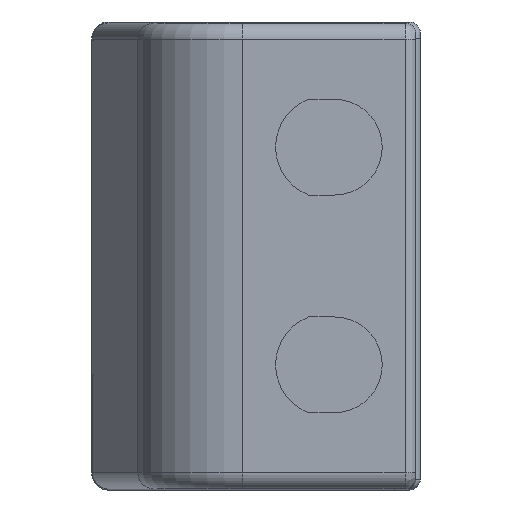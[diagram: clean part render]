
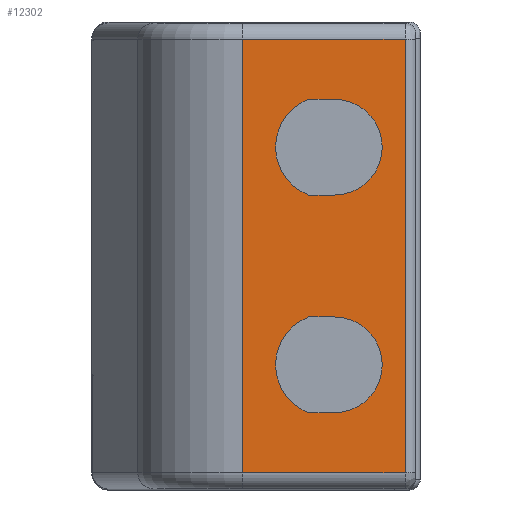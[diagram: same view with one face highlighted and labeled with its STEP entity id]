
A CAD part, left-side view. The second image highlights one B-rep face of the part: STEP entity #12302.
In plain terms, the highlighted planar face has unit normal (-1, 0, 0) as drawn and (0, 0, 1) by its records, which use the part's own axes.
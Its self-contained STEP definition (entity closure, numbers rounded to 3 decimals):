
#10749=CARTESIAN_POINT('',(-10.,8.2,30.));
#10750=DIRECTION('',(0.,0.,1.));
#10751=DIRECTION('',(0.936,0.352,0.));
#10752=AXIS2_PLACEMENT_3D('',#10749,#10750,#10751);
#10754=DIRECTION('',(0.,-1.,0.));
#10755=VECTOR('',#10754,2.352);
#10756=CARTESIAN_POINT('',(-14.4,9.852,30.));
#10757=LINE('',#10756,#10755);
#10758=CARTESIAN_POINT('',(-10.,7.5,30.));
#10759=DIRECTION('',(0.,0.,1.));
#10760=DIRECTION('',(-1.,0.,0.));
#10761=AXIS2_PLACEMENT_3D('',#10758,#10759,#10760);
#10763=DIRECTION('',(0.,1.,0.));
#10764=VECTOR('',#10763,2.352);
#10765=CARTESIAN_POINT('',(-5.6,7.5,30.));
#10766=LINE('',#10765,#10764);
#10767=CARTESIAN_POINT('',(10.,8.2,30.));
#10768=DIRECTION('',(0.,0.,1.));
#10769=DIRECTION('',(0.936,0.352,0.));
#10770=AXIS2_PLACEMENT_3D('',#10767,#10768,#10769);
#10772=DIRECTION('',(0.,-1.,0.));
#10773=VECTOR('',#10772,2.352);
#10774=CARTESIAN_POINT('',(5.6,9.852,30.));
#10775=LINE('',#10774,#10773);
#10776=CARTESIAN_POINT('',(10.,7.5,30.));
#10777=DIRECTION('',(0.,0.,1.));
#10778=DIRECTION('',(-1.,0.,0.));
#10779=AXIS2_PLACEMENT_3D('',#10776,#10777,#10778);
#10781=DIRECTION('',(0.,1.,0.));
#10782=VECTOR('',#10781,2.352);
#10783=CARTESIAN_POINT('',(14.4,7.5,30.));
#10784=LINE('',#10783,#10782);
#10785=DIRECTION('',(1.,0.,0.));
#10786=VECTOR('',#10785,39.8);
#10787=CARTESIAN_POINT('',(-19.9,1.,30.));
#10788=LINE('',#10787,#10786);
#10789=DIRECTION('',(0.,1.,0.));
#10790=VECTOR('',#10789,14.957);
#10791=CARTESIAN_POINT('',(-19.9,1.,30.));
#10792=LINE('',#10791,#10790);
#10793=DIRECTION('',(1.,0.,0.));
#10794=VECTOR('',#10793,39.8);
#10795=CARTESIAN_POINT('',(-19.9,15.957,30.));
#10796=LINE('',#10795,#10794);
#10797=DIRECTION('',(0.,-1.,0.));
#10798=VECTOR('',#10797,14.957);
#10799=CARTESIAN_POINT('',(19.9,15.957,30.));
#10800=LINE('',#10799,#10798);
#11598=CARTESIAN_POINT('',(-5.6,9.852,30.));
#11599=CARTESIAN_POINT('',(-14.4,9.852,30.));
#11600=VERTEX_POINT('',#11598);
#11601=VERTEX_POINT('',#11599);
#11602=CARTESIAN_POINT('',(-14.4,7.5,30.));
#11603=VERTEX_POINT('',#11602);
#11604=CARTESIAN_POINT('',(-5.6,7.5,30.));
#11605=VERTEX_POINT('',#11604);
#11606=CARTESIAN_POINT('',(14.4,9.852,30.));
#11607=CARTESIAN_POINT('',(5.6,9.852,30.));
#11608=VERTEX_POINT('',#11606);
#11609=VERTEX_POINT('',#11607);
#11610=CARTESIAN_POINT('',(5.6,7.5,30.));
#11611=VERTEX_POINT('',#11610);
#11612=CARTESIAN_POINT('',(14.4,7.5,30.));
#11613=VERTEX_POINT('',#11612);
#11665=CARTESIAN_POINT('',(19.9,15.957,30.));
#11667=VERTEX_POINT('',#11665);
#11684=CARTESIAN_POINT('',(-19.9,15.957,30.));
#11686=VERTEX_POINT('',#11684);
#11744=CARTESIAN_POINT('',(19.9,1.,30.));
#11745=VERTEX_POINT('',#11744);
#11748=CARTESIAN_POINT('',(-19.9,1.,30.));
#11749=VERTEX_POINT('',#11748);
#12269=CARTESIAN_POINT('',(-21.4,15.957,30.));
#12270=DIRECTION('',(0.,0.,1.));
#12271=DIRECTION('',(0.,-1.,0.));
#12272=AXIS2_PLACEMENT_3D('',#12269,#12270,#12271);
#12273=PLANE('',#12272);
#12274=ORIENTED_EDGE('',*,*,#12260,.F.);
#12275=ORIENTED_EDGE('',*,*,#11890,.T.);
#12277=ORIENTED_EDGE('',*,*,#12276,.T.);
#12279=ORIENTED_EDGE('',*,*,#12278,.T.);
#12280=EDGE_LOOP('',(#12274,#12275,#12277,#12279));
#12281=FACE_OUTER_BOUND('',#12280,.F.);
#12283=ORIENTED_EDGE('',*,*,#12282,.T.);
#12285=ORIENTED_EDGE('',*,*,#12284,.T.);
#12287=ORIENTED_EDGE('',*,*,#12286,.T.);
#12289=ORIENTED_EDGE('',*,*,#12288,.T.);
#12290=EDGE_LOOP('',(#12283,#12285,#12287,#12289));
#12291=FACE_BOUND('',#12290,.F.);
#12293=ORIENTED_EDGE('',*,*,#12292,.T.);
#12295=ORIENTED_EDGE('',*,*,#12294,.T.);
#12297=ORIENTED_EDGE('',*,*,#12296,.T.);
#12299=ORIENTED_EDGE('',*,*,#12298,.T.);
#12300=EDGE_LOOP('',(#12293,#12295,#12297,#12299));
#12301=FACE_BOUND('',#12300,.F.);
#12302=ADVANCED_FACE('',(#12281,#12291,#12301),#12273,.T.);
#10753=CIRCLE('',#10752,4.7);
#10762=CIRCLE('',#10761,4.4);
#10771=CIRCLE('',#10770,4.7);
#10780=CIRCLE('',#10779,4.4);
#11890=EDGE_CURVE('',#11749,#11686,#10792,.T.);
#12260=EDGE_CURVE('',#11749,#11745,#10788,.T.);
#12276=EDGE_CURVE('',#11686,#11667,#10796,.T.);
#12278=EDGE_CURVE('',#11667,#11745,#10800,.T.);
#12282=EDGE_CURVE('',#11608,#11609,#10771,.T.);
#12284=EDGE_CURVE('',#11609,#11611,#10775,.T.);
#12286=EDGE_CURVE('',#11611,#11613,#10780,.T.);
#12288=EDGE_CURVE('',#11613,#11608,#10784,.T.);
#12292=EDGE_CURVE('',#11600,#11601,#10753,.T.);
#12294=EDGE_CURVE('',#11601,#11603,#10757,.T.);
#12296=EDGE_CURVE('',#11603,#11605,#10762,.T.);
#12298=EDGE_CURVE('',#11605,#11600,#10766,.T.);
